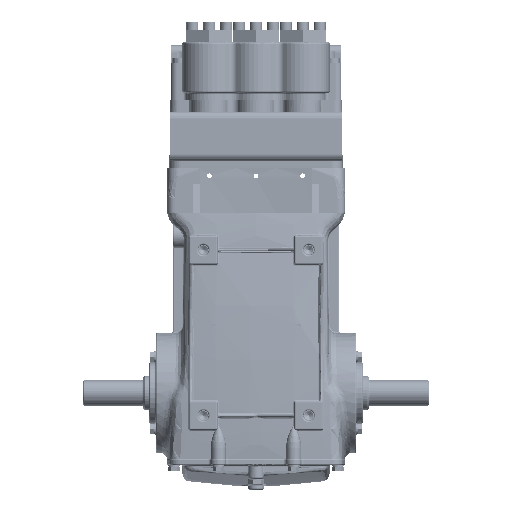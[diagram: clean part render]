
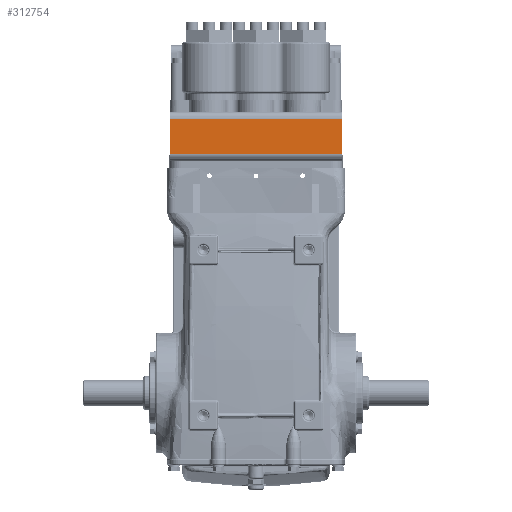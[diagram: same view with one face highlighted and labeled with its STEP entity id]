
A CAD part, front view. The second image highlights one B-rep face of the part: STEP entity #312754.
In plain terms, the highlighted planar face has unit normal (0, -1, 0).
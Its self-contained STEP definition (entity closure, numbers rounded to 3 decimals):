
#88330 = VECTOR ( 'NONE', #99041, 1000. ) ;
#88338 = VECTOR ( 'NONE', #99048, 1000. ) ;
#88346 = VECTOR ( 'NONE', #99055, 1000. ) ;
#88353 = VECTOR ( 'NONE', #99062, 1000. ) ;
#90938 = FACE_OUTER_BOUND ( 'NONE', #295222, .T. ) ;
#90953 = AXIS2_PLACEMENT_3D ( 'NONE', #118192, #118195, #118196 ) ;
#99036 = LINE ( 'NONE', #99039, #88330 ) ;
#99039 = CARTESIAN_POINT ( 'NONE',  ( 114., -113., 318. ) ) ;
#99041 = DIRECTION ( 'NONE',  ( -1., 0., 0. ) ) ;
#99043 = LINE ( 'NONE', #99046, #88338 ) ;
#99046 = CARTESIAN_POINT ( 'NONE',  ( -114., -113., 318. ) ) ;
#99048 = DIRECTION ( 'NONE',  ( 0., 0., 1. ) ) ;
#99050 = LINE ( 'NONE', #99053, #88346 ) ;
#99053 = CARTESIAN_POINT ( 'NONE',  ( 114., -113., 318. ) ) ;
#99055 = DIRECTION ( 'NONE',  ( 0., 0., 1. ) ) ;
#99057 = LINE ( 'NONE', #99060, #88353 ) ;
#99060 = CARTESIAN_POINT ( 'NONE',  ( 114., -113., 364. ) ) ;
#99062 = DIRECTION ( 'NONE',  ( -1., 0., 0. ) ) ;
#118190 = PLANE ( 'NONE',  #90953 ) ;
#118192 = CARTESIAN_POINT ( 'NONE',  ( 114., -113., 318. ) ) ;
#118195 = DIRECTION ( 'NONE',  ( 0., -1., 0. ) ) ;
#118196 = DIRECTION ( 'NONE',  ( 0., 0., 1. ) ) ;
#121412 = CARTESIAN_POINT ( 'NONE',  ( -114., -113., 318. ) ) ;
#121414 = CARTESIAN_POINT ( 'NONE',  ( 114., -113., 318. ) ) ;
#121415 = CARTESIAN_POINT ( 'NONE',  ( -114., -113., 364. ) ) ;
#121416 = CARTESIAN_POINT ( 'NONE',  ( 114., -113., 364. ) ) ;
#295222 = EDGE_LOOP ( 'NONE', ( #319474, #319480, #319478, #319484 ) ) ;
#312329 = EDGE_CURVE ( 'NONE', #317438, #317437, #99036, .T. ) ;
#312333 = EDGE_CURVE ( 'NONE', #317437, #317439, #99043, .T. ) ;
#312336 = EDGE_CURVE ( 'NONE', #317438, #317440, #99050, .T. ) ;
#312338 = EDGE_CURVE ( 'NONE', #317440, #317439, #99057, .T. ) ;
#312754 = ADVANCED_FACE ( 'NONE', ( #90938 ), #118190, .T. ) ;
#317437 = VERTEX_POINT ( 'NONE', #121412 ) ;
#317438 = VERTEX_POINT ( 'NONE', #121414 ) ;
#317439 = VERTEX_POINT ( 'NONE', #121415 ) ;
#317440 = VERTEX_POINT ( 'NONE', #121416 ) ;
#319474 = ORIENTED_EDGE ( 'NONE', *, *, #312333, .F. ) ;
#319478 = ORIENTED_EDGE ( 'NONE', *, *, #312336, .T. ) ;
#319480 = ORIENTED_EDGE ( 'NONE', *, *, #312329, .F. ) ;
#319484 = ORIENTED_EDGE ( 'NONE', *, *, #312338, .T. ) ;
